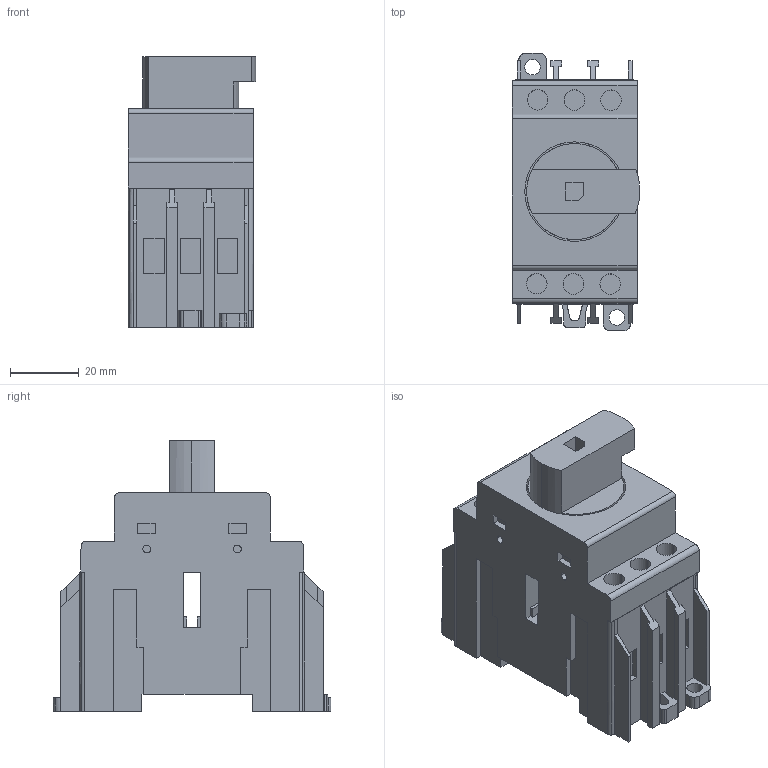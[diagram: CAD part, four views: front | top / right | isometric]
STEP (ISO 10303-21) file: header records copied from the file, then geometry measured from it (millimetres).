
FILE_DESCRIPTION (( 'STEP AP203' ), '1' );
FILE_NAME ('Ïîëþñ çàçåìëåíèÿ OptiSwitch DI-16-63; Ïîëþñ íåéòðàëè OptiSwitch DI-16-63 (äëÿ OptiSwitch DI-16-63_ñëåâà) (m=0,043êã).STEP', '2023-03-27T05:42:26', ( '' ), ( '' ), 'SwSTEP 2.0', 'SolidWorks 2018', '' );
FILE_SCHEMA (( 'CONFIG_CONTROL_DESIGN' ));
Length unit declared in the file: millimetre
Products named in the file (1): Ïîëþñ çàçåìëåíèÿ OptiSwitch DI-16-63; Ïîëþñ íåéòðàëè OptiSwitch DI-16-63 (äëÿ OptiSwitch DI-16-63_ñëåâà) (m=0,043êã)
Bounding box: 37.19 x 80.96 x 78.9 mm (x, y, z)
Volume: 127107.5 mm3; surface area: 32179.3 mm2
Topology: 1 solids, 1 shells, 323 faces, 875 edges, 580 vertices
Faces by surface type: plane 262, bspline 32, cylinder 29
Entity records: 10183 total; most frequent: CARTESIAN_POINT 2217, ORIENTED_EDGE 1750, DIRECTION 1450, EDGE_CURVE 875, LINE 740, VECTOR 740, VERTEX_POINT 580, EDGE_LOOP 357
